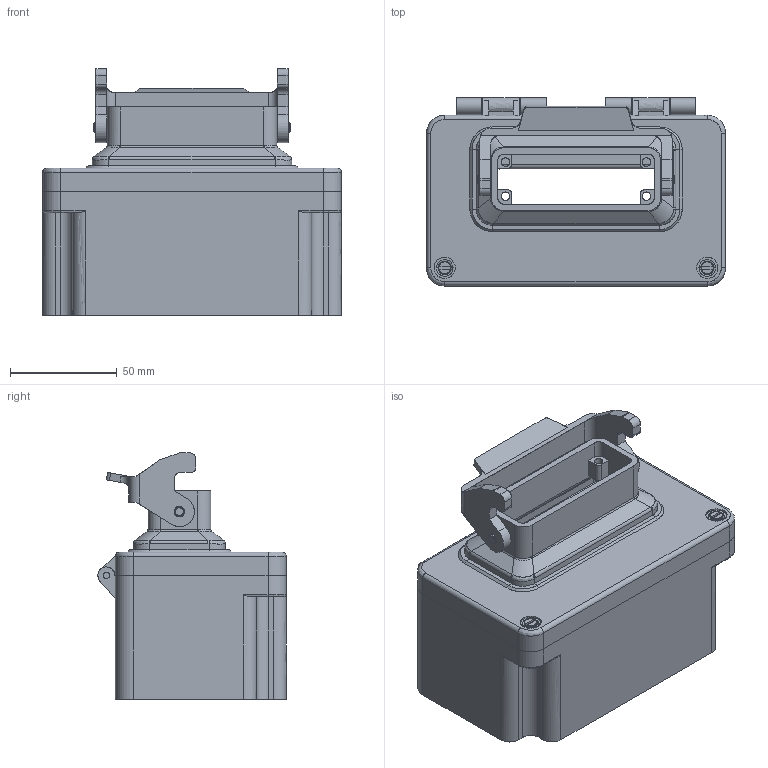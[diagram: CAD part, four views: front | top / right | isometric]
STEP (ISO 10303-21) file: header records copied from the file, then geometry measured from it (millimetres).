
FILE_DESCRIPTION( ( 'STEP AP214' ), '1' );
FILE_NAME( 'C:/Dokumente und Einstellungen/Administrator/Desktop/47 Kabelboxen/G1/6/gr_1_16a-b.stp', '2006-09-10T10:01:53', ( ' ' ), ( ' ' ), 'XStep 1.0', 'VISICAD', ' ' );
FILE_SCHEMA( ( 'automotive_design' ) );
Length unit declared in the file: millimetre
Products named in the file (815): 1; 2; 3; 4; 5; 6; 7; 8; 9; 10; 11; 12; 13; 14; 15; 16; 17; 18; 19; 20; 21; 22; 23; 24; 25; 26; 27; 28; 29; 30; 31; 32; 33; 34; 35; 36; 37; 38; 39; 40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
Bounding box: 140 x 88.2 x 115.52 mm (x, y, z)
Surface area: 119402.3 mm2 (no closed solid volume)
Topology: 0 solids, 815 shells, 815 faces, 4229 edges, 4229 vertices
Faces by surface type: plane 316, bspline 264, revolution 212, cylinder 23
Entity records: 91594 total; most frequent: CARTESIAN_POINT 42592, DIRECTION 5693, ORIENTED_EDGE 4229, EDGE_CURVE 4229, VERTEX_POINT 4229, LINE 2177, VECTOR 2177, B_SPLINE_CURVE_WITH_KNOTS 1750
